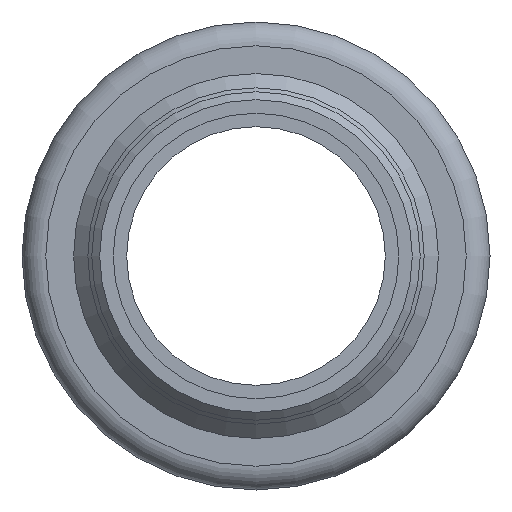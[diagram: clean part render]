
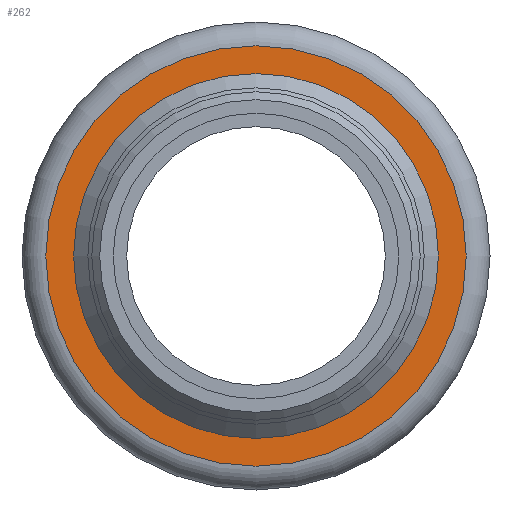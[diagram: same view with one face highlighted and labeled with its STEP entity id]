
A CAD part, front view. The second image highlights one B-rep face of the part: STEP entity #262.
In plain terms, the highlighted planar face has unit normal (0, -1, 0).
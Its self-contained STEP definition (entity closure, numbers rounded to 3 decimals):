
#83=ORIENTED_EDGE('',*,*,#104,.F.);
#84=ORIENTED_EDGE('',*,*,#110,.T.);
#104=EDGE_CURVE('',#125,#125,#146,.T.);
#110=EDGE_CURVE('',#131,#131,#152,.T.);
#125=VERTEX_POINT('',#473);
#131=VERTEX_POINT('',#489);
#146=CIRCLE('',#323,23.);
#152=CIRCLE('',#333,26.5);
#188=EDGE_LOOP('',(#83));
#189=EDGE_LOOP('',(#84));
#230=FACE_BOUND('',#188,.T.);
#231=FACE_BOUND('',#189,.T.);
#243=PLANE('',#334);
#262=ADVANCED_FACE('',(#230,#231),#243,.T.);
#323=AXIS2_PLACEMENT_3D('',#472,#395,#396);
#333=AXIS2_PLACEMENT_3D('',#488,#415,#416);
#334=AXIS2_PLACEMENT_3D('',#490,#417,#418);
#395=DIRECTION('',(0.,-1.,0.));
#396=DIRECTION('',(0.,0.,-1.));
#415=DIRECTION('',(0.,-1.,0.));
#416=DIRECTION('',(0.,0.,-1.));
#417=DIRECTION('',(0.,-1.,0.));
#418=DIRECTION('',(0.,0.,-1.));
#472=CARTESIAN_POINT('',(0.,0.,0.));
#473=CARTESIAN_POINT('',(0.,0.,-23.));
#488=CARTESIAN_POINT('',(0.,0.,0.));
#489=CARTESIAN_POINT('',(0.,0.,-26.5));
#490=CARTESIAN_POINT('',(0.,0.,21.2));
